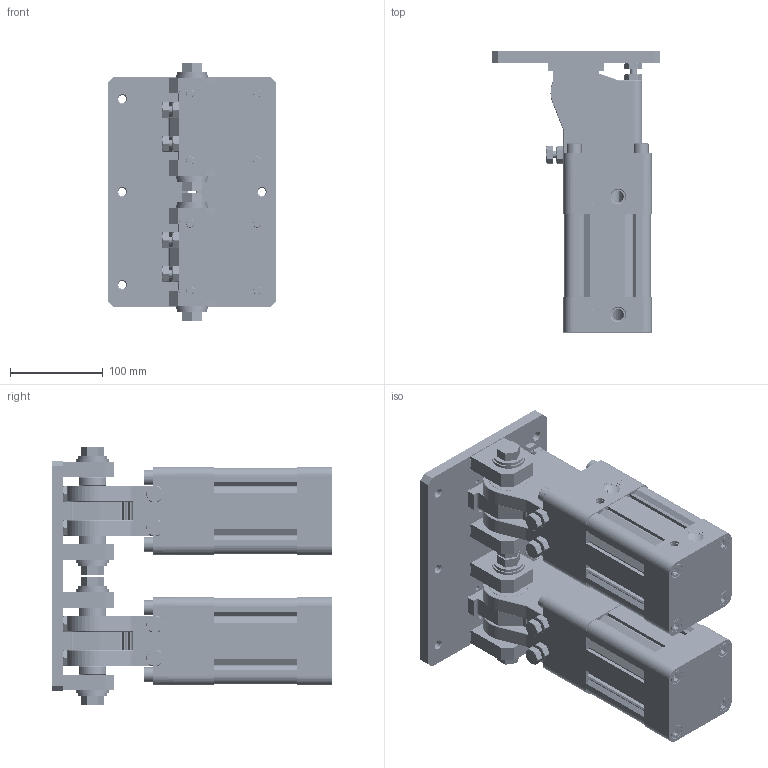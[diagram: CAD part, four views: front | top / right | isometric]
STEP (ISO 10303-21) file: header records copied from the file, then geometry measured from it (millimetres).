
FILE_DESCRIPTION(/* description */ (''),/* implementation_level */ '2;1');
FILE_NAME(/* name */ '2-DHR2C-80M50PPV-ZG-ZB.stp',/* time_stamp */ '2025-06-12T08:24:19+08:00',/* author */ (''),/* organization */ (''),/* preprocessor_version */ 'ST-DEVELOPER v15',/* originating_system */ 'SIEMENS PLM Software NX 10.0',/* authorisation */ '');
FILE_SCHEMA (('AP203_CONFIGURATION_CONTROLLED_3D_DESIGN_OF_MECHANICAL_PARTS_AND_ASSEMBLIES_MIM_LF { 1 0 10303 403 2 1 2}'));
Products named in the file (1): Admi31B8C635pvlz
Bounding box: 180 x 302 x 278 mm (x, y, z)
Volume: 3954673.9 mm3; surface area: 950022.9 mm2
Topology: 115 solids, 115 shells, 3046 faces, 7560 edges, 4974 vertices
Faces by surface type: plane 1390, cylinder 934, cone 310, extrusion 224, bspline 152, torus 36
Full cylindrical faces by diameter (mm): 3 x4, 3.3 x4, 4.2 x8, 5 x8, 6.1 x12, 6.4 x10, 6.5 x12, 6.8 x4, 8 x32, 8.5 x37, 8.7 x8, 10 x189, 10.7 x8, 12 x4, 13 x12, 14 x16, 15 x16, 16 x8, 16.3 x16, 16.5 x4, 20 x20, 23 x4, 25 x2, 25.2 x2, 25.5 x2, 28 x4, 29 x2, 30 x12, 35 x4, 36 x4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
Entity records: 272622 total; most frequent: CARTESIAN_POINT 210355, ORIENTED_EDGE 12338, DIRECTION 11728, EDGE_CURVE 6169, VERTEX_POINT 4343, AXIS2_PLACEMENT_3D 4252, EDGE_LOOP 3906, VECTOR 3224
